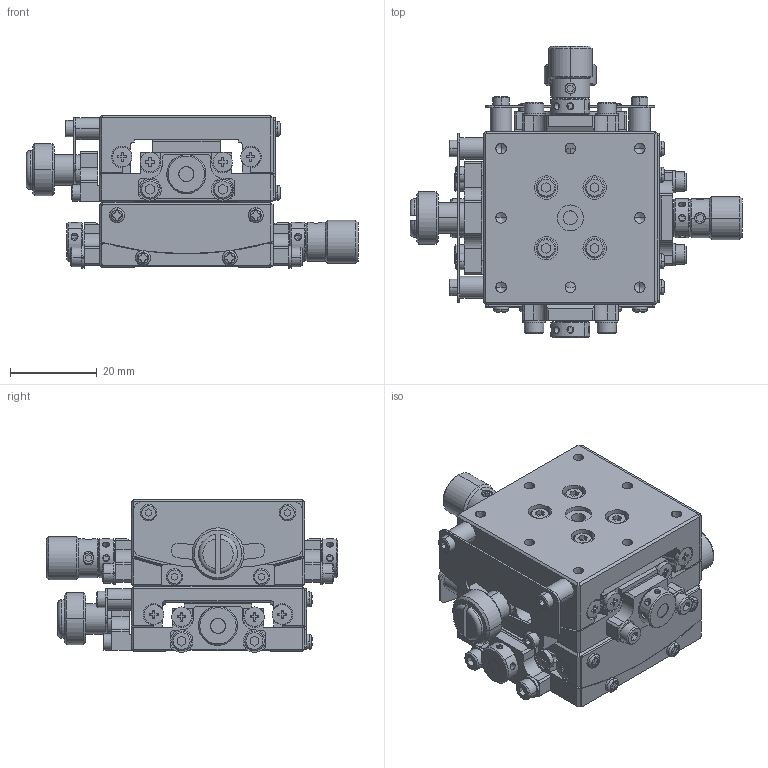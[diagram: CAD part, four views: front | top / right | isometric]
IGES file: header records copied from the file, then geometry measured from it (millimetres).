
Global section: file name: No Iges File Name specified; native system: AutoDesk Inventor R12.0; preprocessor: AutoDesk Inventor Iges Exporter R12.0; author: No Author specified; organization: No Organization specified; date: 20090409.133642; units: millimetre
Bounding box: 76.6 x 67.2 x 35.21 mm (x, y, z)
Volume: 54074.9 mm3; surface area: 37710.6 mm2
Topology: 120 solids, 139 shells, 2922 faces, 7325 edges, 4547 vertices
Faces by surface type: plane 1253, bspline 653, cylinder 416, cone 256, revolution 220, sphere 104, torus 20
